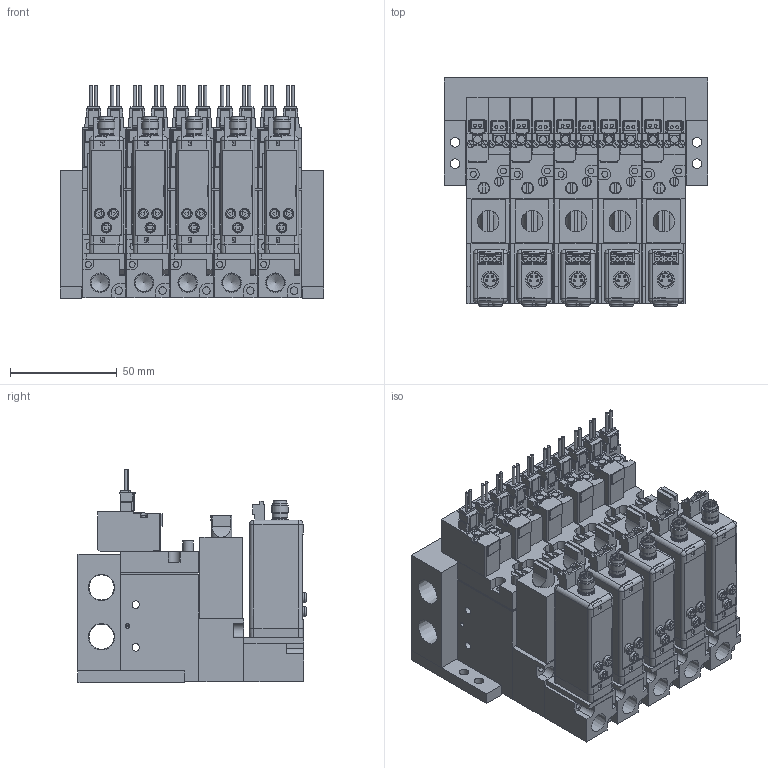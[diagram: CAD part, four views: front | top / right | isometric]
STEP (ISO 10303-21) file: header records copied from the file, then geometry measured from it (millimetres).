
FILE_DESCRIPTION(('STEP AP203'),'1');
FILE_NAME('BMPV32M2N20225AL505.stp','2025-06-16T08:55:53',(' '),(' '),'Spatial InterOp 3D',' ',' ');
FILE_SCHEMA(('CONFIG_CONTROL_DESIGN'));
Length unit declared in the file: millimetre
Products named in the file (64): BMPV32M2N20225AL505; MVS-202; ___-3(Rc); Filter Assy; __; _____; ___ ___; MB BRACKET; MB05; ___; upper plate-A; ______; ____; VACUUM VALVE FUNCTION MPV42-A; UV280-4E
Assembly tree (63 placements, depth 2):
  BMPV32M2N20225AL505
    MVS-202
    ___-3(Rc)
    Filter Assy
    __
    _____
    ___ ___
    MVS-202
    ___-3(Rc)
    Filter Assy
    __
    _____
    ___ ___
    MVS-202
    ___-3(Rc)
    Filter Assy
    __
    _____
    ___ ___
    MVS-202
    ___-3(Rc)
    Filter Assy
    __
    _____
    ___ ___
    MB BRACKET
    MB BRACKET
    MB05
    MVS-202
    ___-3(Rc)
    Filter Assy
    __
    _____
    ___ ___
    ___
    upper plate-A
    ______
    ____
    VACUUM VALVE FUNCTION MPV42-A
    ___
    upper plate-A
    ______
    ____
    VACUUM VALVE FUNCTION MPV42-A
    ___
    upper plate-A
    ______
    ____
    VACUUM VALVE FUNCTION MPV42-A
    ___
    upper plate-A
    ______
    ____
    VACUUM VALVE FUNCTION MPV42-A
    ___
    upper plate-A
    ______
    ____
    VACUUM VALVE FUNCTION MPV42-A
    UV280-4E
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Bounding box: 123 x 106.6 x 99.75 mm (x, y, z)
Volume: 652023.7 mm3; surface area: 229109.7 mm2
Topology: 63 solids, 83 shells, 3962 faces, 10160 edges, 6654 vertices
Faces by surface type: plane 3236, cylinder 603, cone 88, sphere 20, torus 15
Full cylindrical faces by diameter (mm): 1 x20, 1.4 x20, 1.5 x5, 1.8 x10, 2 x10, 2.5 x14, 2.8 x20, 3 x20, 3.5 x54, 4 x5, 4.2 x5, 4.5 x24, 4.8 x15, 5 x15, 5.5 x5, 5.8 x10, 6 x5, 6.5 x21, 7 x5, 7.2 x5, 7.9 x5, 8 x10, 8.2 x5, 8.759 x5, 11.776 x2
Entity records: 119610 total; most frequent: CARTESIAN_POINT 20893, ORIENTED_EDGE 19196, DIRECTION 19070, EDGE_CURVE 9598, LINE 8018, VECTOR 8018, VERTEX_POINT 6569, AXIS2_PLACEMENT_3D 5526
